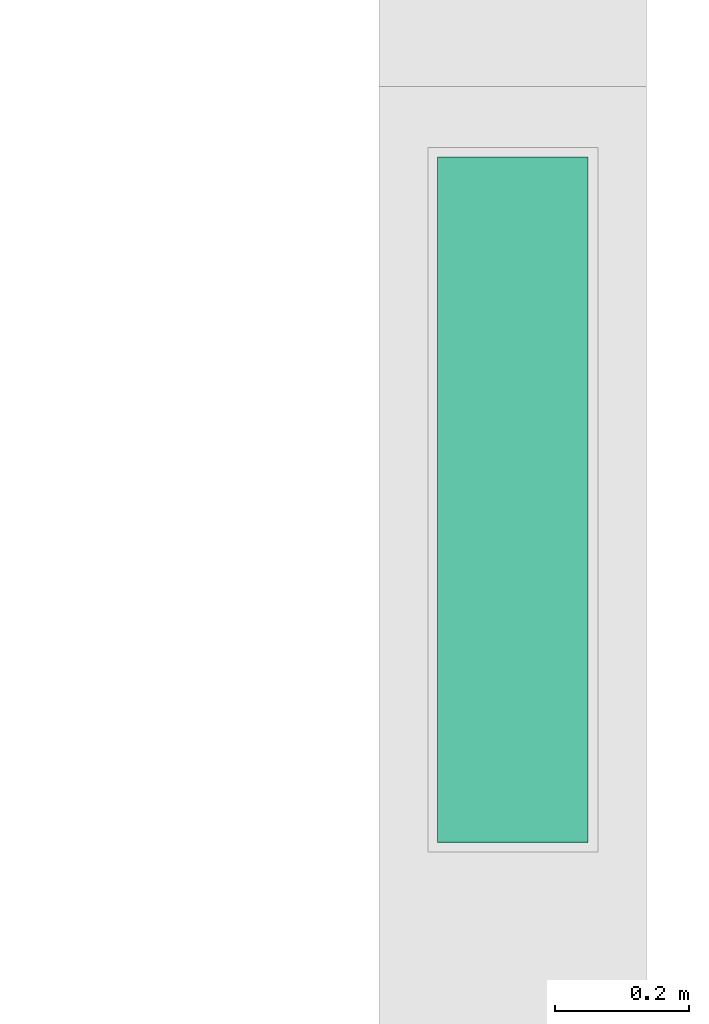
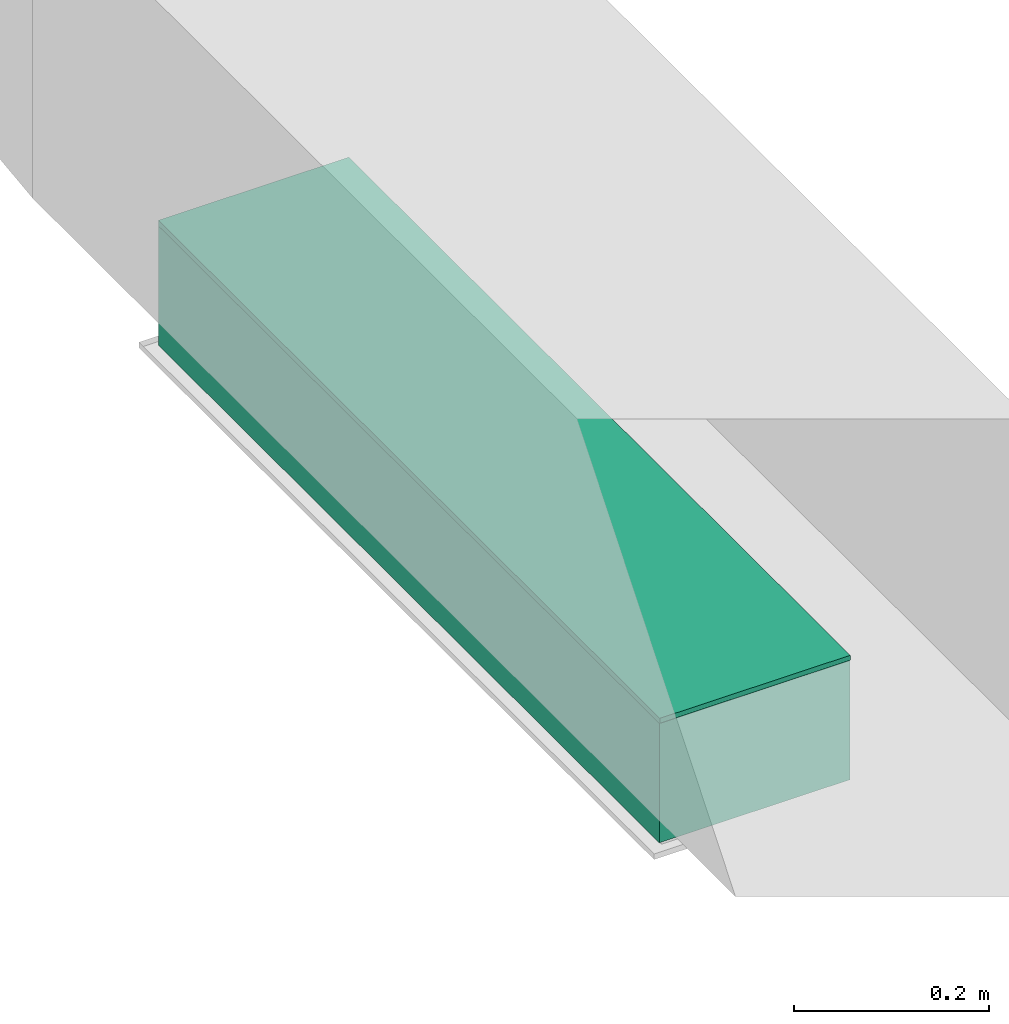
# One storey, part 18 of 60: 1 flow fitting, 1 flow segment.
"""IFC2X3 building model written with IfcOpenShell, lengths in millimetres."""

from ifc_helpers import new_model, entity, si_unit, converted_unit, derived_unit, direction, frame, origin, origin_2d_with_axis, place, context, subcontext, project, spatial, polyline, rectangle, outline, extrude, source, transform, mapped, material, type_object, type_shapes, element, save


model = new_model("IFC2X3")

# Units and contexts
model_context = context("Model", 3, precision=0.01, world=origin(), true_north=direction((6.123233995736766e-17, 1.0)))
body_context = subcontext(model_context, "Body", "Model", "MODEL_VIEW")
ifc_project = project(units=[si_unit("LENGTHUNIT", "METRE", prefix="MILLI"), converted_unit("PLANEANGLEUNIT", "DEGREE", entity("IfcPlaneAngleMeasure", 0.017453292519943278), si_unit("PLANEANGLEUNIT", "RADIAN"), dimensions=[0, 0, 0, 0, 0, 0, 0]), si_unit("AREAUNIT", "SQUARE_METRE"), derived_unit("THERMALTRANSMITTANCEUNIT", [(si_unit("MASSUNIT", "GRAM", prefix="KILO"), 1), (si_unit("THERMODYNAMICTEMPERATUREUNIT", "KELVIN"), -1), (si_unit("TIMEUNIT", "SECOND"), -3)])], contexts=[model_context])

# Site, building, storey
site_placement = place(None, origin())
site = spatial("IfcSite", under=ifc_project, at=site_placement, Name="Default", CompositionType="ELEMENT")
building_placement = place(site_placement, origin())
building = spatial("IfcBuilding", under=site, at=building_placement, Name="Praça Pedro II, 1301 - Centro (Sul), Teresina - PI, 64001-100", CompositionType="ELEMENT")
storey_placement = place(building_placement, frame((0.0, 0.0, 6040.0)))
storey = spatial("IfcBuildingStorey", under=building, at=storey_placement, Name="2PAV", CompositionType="ELEMENT", Elevation=6040.0)

# Flow segment
duct_segment_type = type_object("IfcDuctSegmentType", Name="Duto retangular:Raios cotovelos / torneiras", PredefinedType="NOTDEFINED")
flow_segment_placement = place(storey_placement, origin())
element("IfcFlowSegment", 1, at=flow_segment_placement, inside=storey, type_object=duct_segment_type, Name="Duto retangular:Raios cotovelos / torneiras", ObjectType="Duto retangular:Raios cotovelos / torneiras", context=body_context, shape_type="SweptSolid", body=[
    extrude(rectangle(XDim=225.00000000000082, YDim=1024.9999999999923, at=origin_2d_with_axis()), frame((39577.445022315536, -56820.525111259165, 3100.0)), (0.0, 0.0, 1.0), 148.9999999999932),
])

# Flow fitting
ifc_material = material(Name="<Unnamed>")
duct_fitting_type = type_object("IfcDuctFittingType", Name="M_Rectangular Tap - Beveled:Standard", PredefinedType="NOTDEFINED", material=ifc_material)
shared_shape = source(origin(), body_context, "Body", "SweptSolid", [
    extrude(outline(polyline([(-3.0383999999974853, -615.4000000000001), (4.057600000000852, -615.4000000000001), (4.057600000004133, 410.6000000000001), (-2.0383999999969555, 410.6000000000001), (-3.0383999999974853, 409.59999999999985), (-3.0383999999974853, -615.4000000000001)])), frame((-2.038399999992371, -102.90000000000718, -112.49999999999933), z_axis=(0.0, 0.0, 1.0), x_axis=(-1.0, 0.0, 0.0)), (0.0, 0.0, 1.0), 224.99999999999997),
])
type_shapes(duct_fitting_type, [shared_shape])
flow_fitting_placement = place(storey_placement, frame((39577.445022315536, -56820.52511125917, 3250.0), z_axis=(1.0, 0.0, 0.0), x_axis=(0.0, 0.0, -1.0)))
element("IfcFlowFitting", 2, at=flow_fitting_placement, inside=storey, type_object=duct_fitting_type, material=ifc_material, Name="M_Rectangular Tap - Beveled:Standard", ObjectType="M_Rectangular Tap - Beveled:Standard", context=body_context, shape_type="MappedRepresentation", body=[
    mapped(shared_shape, transform((0.0, 0.0, 0.0), scale=1.0)),
])

save(model, "model.ifc")
